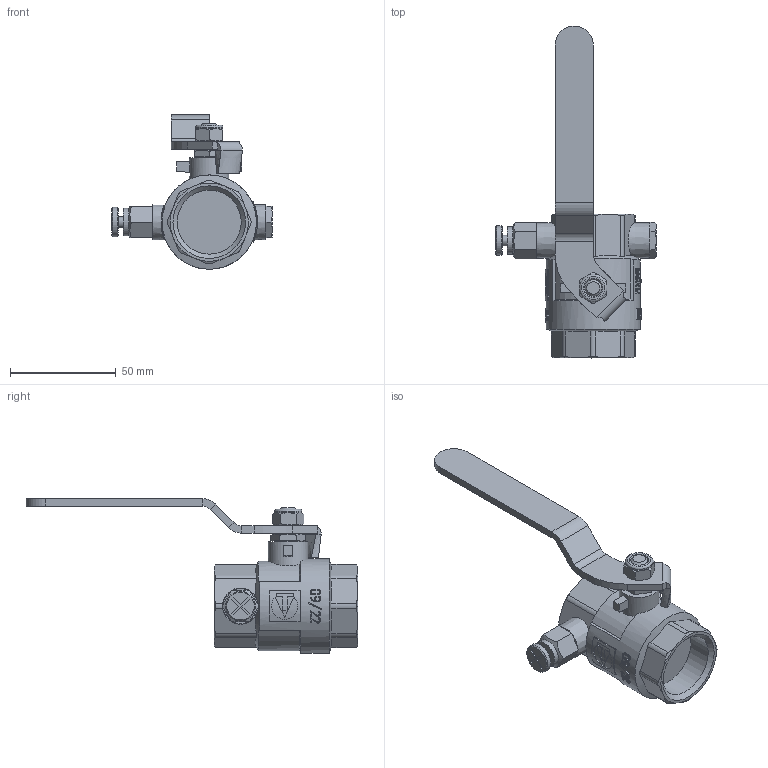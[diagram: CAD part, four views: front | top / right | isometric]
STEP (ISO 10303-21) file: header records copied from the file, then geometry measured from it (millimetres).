
FILE_DESCRIPTION(('STEP AP203'), '1');
FILE_NAME('VT.245.N.06', '2024-09-12T09:44:27', ('User'), ('Vesta'), 'C3D Converter', 'C3D Toolkit', '');
FILE_SCHEMA(('CONFIG_CONTROL_DESIGN'));
Length unit declared in the file: millimetre
Products named in the file (3): ВР.745303.004
Assembly tree (2 placements, depth 2):
  (unnamed)
    ВР.745303.004
    (unnamed)
Bounding box: 75.9 x 156.85 x 73.08 mm (x, y, z)
Volume: 90252.1 mm3; surface area: 24716.7 mm2
Topology: 1 solids, 1 shells, 750 faces, 2042 edges, 1332 vertices
Faces by surface type: plane 316, extrusion 315, cylinder 70, cone 44, bspline 4, torus 1
Full cylindrical faces by diameter (mm): 5 x1, 8 x2, 12 x1, 13 x2, 14 x1, 18.7 x1, 30.292 x2, 44.6 x1
Entity records: 36169 total; most frequent: CARTESIAN_POINT 19021, ORIENTED_EDGE 4020, DIRECTION 2513, EDGE_CURVE 2010, VERTEX_POINT 1330, VECTOR 1157, B_SPLINE_CURVE_WITH_KNOTS 1090, LINE 842
